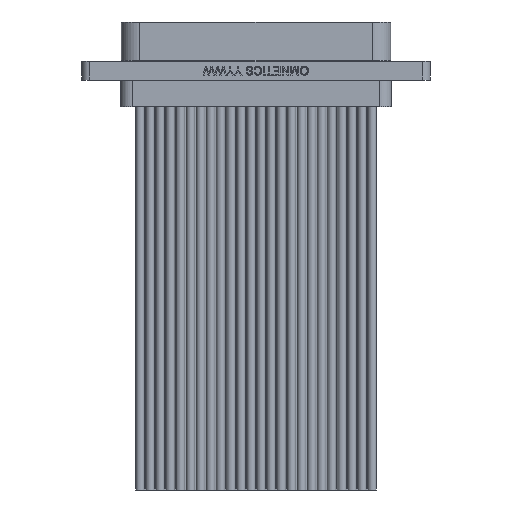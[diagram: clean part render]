
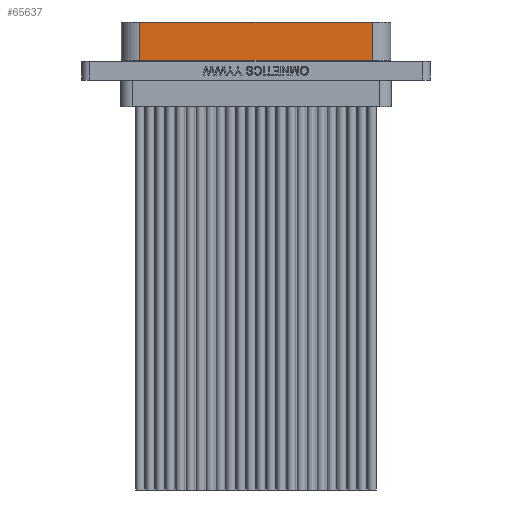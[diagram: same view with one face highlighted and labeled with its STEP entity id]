
A CAD part, front view. The second image highlights one B-rep face of the part: STEP entity #65637.
In plain terms, the highlighted planar face has unit normal (0, -1, 0).
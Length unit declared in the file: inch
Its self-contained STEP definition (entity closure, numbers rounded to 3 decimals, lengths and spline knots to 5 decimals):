
#1261 = LINE ( 'NONE', #65617, #6299 ) ;
#4546 = CARTESIAN_POINT ( 'NONE',  ( -0.8225, -0.1176, 0.235 ) ) ;
#5543 = PLANE ( 'NONE',  #66911 ) ;
#6299 = VECTOR ( 'NONE', #55548, 39.37008 ) ;
#7965 = EDGE_LOOP ( 'NONE', ( #61099, #34282, #67059, #10850 ) ) ;
#9511 = EDGE_CURVE ( 'NONE', #63668, #19939, #11923, .T. ) ;
#10850 = ORIENTED_EDGE ( 'NONE', *, *, #24026, .F. ) ;
#11923 = LINE ( 'NONE', #33890, #60301 ) ;
#12030 = VECTOR ( 'NONE', #26452, 39.37008 ) ;
#16801 = VERTEX_POINT ( 'NONE', #35605 ) ;
#19939 = VERTEX_POINT ( 'NONE', #58108 ) ;
#23134 = DIRECTION ( 'NONE',  ( 0., 0., -1. ) ) ;
#24026 = EDGE_CURVE ( 'NONE', #63668, #50272, #33694, .T. ) ;
#26272 = VECTOR ( 'NONE', #56026, 39.37008 ) ;
#26452 = DIRECTION ( 'NONE',  ( 1., 0., 0. ) ) ;
#31837 = CARTESIAN_POINT ( 'NONE',  ( 0.575, -0.1176, 0.235 ) ) ;
#33386 = DIRECTION ( 'NONE',  ( 0., 1., 0. ) ) ;
#33694 = LINE ( 'NONE', #4546, #12030 ) ;
#33890 = CARTESIAN_POINT ( 'NONE',  ( -0.575, -0.1176, 0.235 ) ) ;
#34282 = ORIENTED_EDGE ( 'NONE', *, *, #48107, .T. ) ;
#35605 = CARTESIAN_POINT ( 'NONE',  ( 0.575, -0.1176, 0.045 ) ) ;
#46967 = CARTESIAN_POINT ( 'NONE',  ( -0.575, -0.1176, 0.235 ) ) ;
#48107 = EDGE_CURVE ( 'NONE', #19939, #16801, #64730, .T. ) ;
#48114 = CARTESIAN_POINT ( 'NONE',  ( -0.8225, -0.1176, 0.235 ) ) ;
#50272 = VERTEX_POINT ( 'NONE', #31837 ) ;
#50957 = EDGE_CURVE ( 'NONE', #50272, #16801, #1261, .T. ) ;
#54316 = FACE_OUTER_BOUND ( 'NONE', #7965, .T. ) ;
#55548 = DIRECTION ( 'NONE',  ( 0., 0., -1. ) ) ;
#56026 = DIRECTION ( 'NONE',  ( 1., 0., 0. ) ) ;
#56431 = DIRECTION ( 'NONE',  ( 0., 0., 1. ) ) ;
#58108 = CARTESIAN_POINT ( 'NONE',  ( -0.575, -0.1176, 0.045 ) ) ;
#60301 = VECTOR ( 'NONE', #23134, 39.37008 ) ;
#61099 = ORIENTED_EDGE ( 'NONE', *, *, #9511, .T. ) ;
#61620 = CARTESIAN_POINT ( 'NONE',  ( 0.575, -0.1176, 0.045 ) ) ;
#63668 = VERTEX_POINT ( 'NONE', #46967 ) ;
#64730 = LINE ( 'NONE', #61620, #26272 ) ;
#65617 = CARTESIAN_POINT ( 'NONE',  ( 0.575, -0.1176, 0.235 ) ) ;
#65637 = ADVANCED_FACE ( 'NONE', ( #54316 ), #5543, .F. ) ;
#66911 = AXIS2_PLACEMENT_3D ( 'NONE', #48114, #33386, #56431 ) ;
#67059 = ORIENTED_EDGE ( 'NONE', *, *, #50957, .F. ) ;
